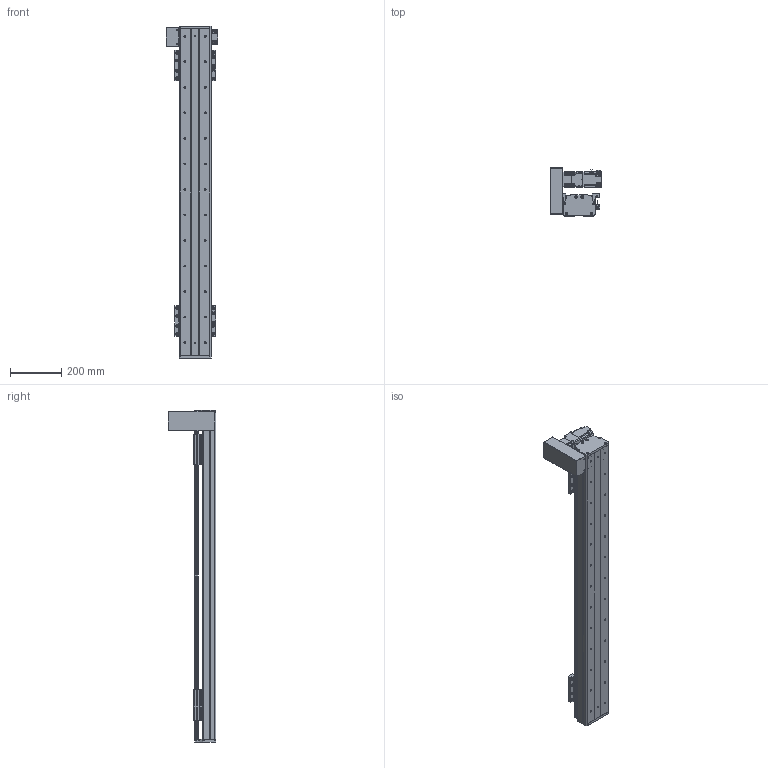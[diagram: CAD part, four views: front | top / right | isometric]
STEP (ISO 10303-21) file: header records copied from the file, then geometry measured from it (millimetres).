
FILE_DESCRIPTION(/* description */ (''),/* implementation_level */ '2;1');
FILE_NAME(/* name */ 'C:\Users\PC\Desktop\3D도면\STEP\DSB125-UL2G-W1000-R.stp',/* time_stamp */ '2018-06-19T00:42:32-07:00',/* author */ ('PC'),/* organization */ (''),/* preprocessor_version */ 'ST-DEVELOPER v16.5',/* originating_system */ 'Autodesk Inventor 2017',/* authorisation */ '');
FILE_SCHEMA (('AUTOMOTIVE_DESIGN { 1 0 10303 214 3 1 1 }'));
Length unit declared in the file: millimetre
Products named in the file (12): DSB125-L-300ST; DSR125-BASE(S-TYPE); DSR125-UP COVER-R01(170203); DSR125-REAR COVER-R01(170203); DSR125-REAR COVER-R01(170203)_1; hg-kr23_; ab0601-p0401200402; 13-BELT COVER; DSR126-SENSOR DOG; SENSOR BRACKET(EE-SX674A); pm-y65_step; DSR125-TABLE(MSA15X)
Assembly tree (16 placements, depth 2):
  DSB125-L-300ST
    DSR125-BASE(S-TYPE)
    DSR125-UP COVER-R01(170203)
    DSR125-REAR COVER-R01(170203)
    DSR125-REAR COVER-R01(170203)_1
    hg-kr23_
    ab0601-p0401200402
    13-BELT COVER
    DSR126-SENSOR DOG
    SENSOR BRACKET(EE-SX674A)  x3
    pm-y65_step  x3
    DSR125-TABLE(MSA15X)  x2
Bounding box: 202.1 x 187 x 1300 mm (x, y, z)
Volume: 4819336 mm3; surface area: 1389031.4 mm2
Topology: 17 solids, 22 shells, 1673 faces, 4531 edges, 2988 vertices
Faces by surface type: plane 908, cylinder 637, cone 116, sphere 8, torus 4
Full cylindrical faces by diameter (mm): 2.459 x20, 3.242 x16, 3.5 x6, 4 x1, 4.134 x16, 4.2 x4, 4.3 x1, 4.5 x50, 4.917 x20, 5 x27, 5.3 x1, 5.5 x4, 5.6 x8, 5.8 x4, 5.9 x8, 6 x4, 6.6 x22, 6.647 x26, 7.5 x32, 8.5 x8, 8.7 x1, 11 x22, 14 x1, 16 x2, 17 x1, 20 x1, 47 x1, 50 x3
Entity records: 35590 total; most frequent: CARTESIAN_POINT 6535, DIRECTION 6172, ORIENTED_EDGE 5502, EDGE_CURVE 2756, AXIS2_PLACEMENT_3D 2274, VERTEX_POINT 1965, EDGE_LOOP 1697, LINE 1624
